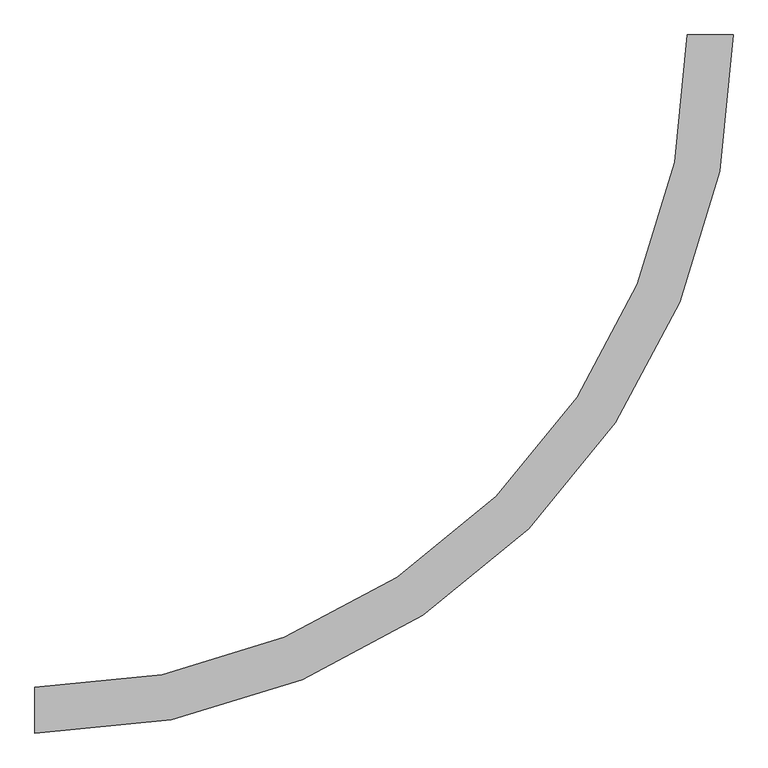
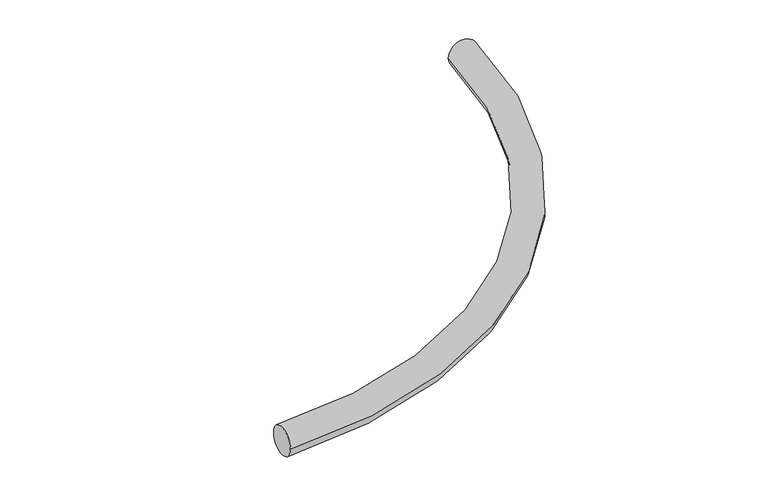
"""IFC4 building model written with IfcOpenShell, lengths in millimetres: duct segment geometry, NLRS_57_DUF_UN_Hybalans flexbend round_M&G : extract ø75 ø92 (red)."""

from ifc_helpers import new_model, si_unit, point, frame, origin, place, context, project, spatial, circle_curve, ellipse_curve, trimmed, source, transform, mapped, element, save
from ifc_brep_helpers import plane_surface, revolved_surface, advanced_brep


def duct_segment_79d2183e(model_context):
    return source(origin(), model_context, "Body", "AdvancedBrep", [
        advanced_brep(
        [(-1100.0, -37.5, 0.0), (-1100.0, 37.5, 0.0), (37.5, 1100.0, 0.0), (-37.5, 1100.0, 0.0)],
        [
            (0, 1, circle_curve(frame((-1100.0, 0.0, 0.0), z_axis=(-1.0, 0.0, 0.0), x_axis=(0.0, 1.0, 0.0)), 37.5)),
            (1, 0, circle_curve(frame((-1100.0, 0.0, 0.0), z_axis=(-1.0, 0.0, 0.0), x_axis=(0.0, 1.0, 0.0)), 37.5)),
            (2, 3, circle_curve(frame((0.0, 1100.0, 0.0), z_axis=(0.0, 1.0, 0.0), x_axis=(-1.0, 0.0, 0.0)), 37.5)),
            (3, 2, circle_curve(frame((0.0, 1100.0, 0.0), z_axis=(0.0, 1.0, 0.0), x_axis=(-1.0, 0.0, 0.0)), 37.5)),
            (3, 1, circle_curve(frame((-1100.0, 1100.0, 0.0), z_axis=(0.0, 0.0, -1.0), x_axis=(0.0, -1.0, 0.0)), 1062.5)),
            (0, 2, circle_curve(frame((-1100.0, 1100.0, 0.0), z_axis=(0.0, 0.0, 1.0), x_axis=(0.0, -1.0, 0.0)), 1137.5)),
        ],
        [
            plane_surface(frame((-1100.0, 0.0, 0.0), z_axis=(-1.0, 0.0, 0.0), x_axis=(0.0, 0.0, 1.0))),
            plane_surface(frame((0.0, 1100.0, 0.0), z_axis=(0.0, 1.0, 0.0), x_axis=(0.0, 0.0, 1.0))),
            revolved_surface(trimmed(ellipse_curve(frame((-1100.0, 0.0, 0.0), z_axis=(-1.0, 0.0, 0.0), x_axis=(0.0, 1.0, 0.0)), 37.5, 37.5), [point((-1100.0, -37.5, 0.0))], [point((-1100.0, 37.5, 0.0))], True, "CARTESIAN"), (-1100.0, 1100.0, 0.0), (0.0, 0.0, 1.0)),
            revolved_surface(trimmed(ellipse_curve(frame((-1100.0, 0.0, 0.0), z_axis=(-1.0, 0.0, 0.0), x_axis=(0.0, 1.0, 0.0)), 37.5, 37.5), [point((-1100.0, 37.5, 0.0))], [point((-1100.0, -37.5, 0.0))], True, "CARTESIAN"), (-1100.0, 1100.0, 0.0), (0.0, 0.0, 1.0)),
        ],
        [
            (0, [[1, 2]]),
            (1, [[3, 4]]),
            (2, [[5, -1, 6, -4]]),
            (3, [[-6, -2, -5, -3]]),
        ],
    ),
    ])


if __name__ == "__main__":
    model = new_model("IFC4")
    model_context = context("Model", 3, world=origin())
    ifc_project = project(units=[si_unit("LENGTHUNIT", "METRE", prefix="MILLI")], contexts=[model_context])
    site = spatial("IfcSite", under=ifc_project)
    building = spatial("IfcBuilding", under=site)
    placement = place(None, origin())
    duct_segment_shape = duct_segment_79d2183e(model_context)
    element("IfcDuctSegment", 1, ObjectType="NLRS_57_DUF_UN_Hybalans flexbend round_M&G : extract ø75 ø92 (red)", at=placement, inside=building, context=model_context, shape_type="MappedRepresentation", body=[
        mapped(duct_segment_shape, transform((0.0, 0.0, 0.0), x_axis=(1.0, 0.0, 0.0), y_axis=(0.0, 1.0, 0.0), z_axis=(0.0, 0.0, 1.0))),
    ])
    save(model, "model.ifc")
